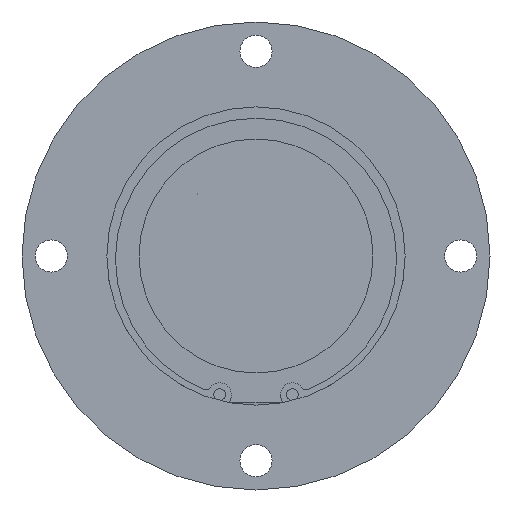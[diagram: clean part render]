
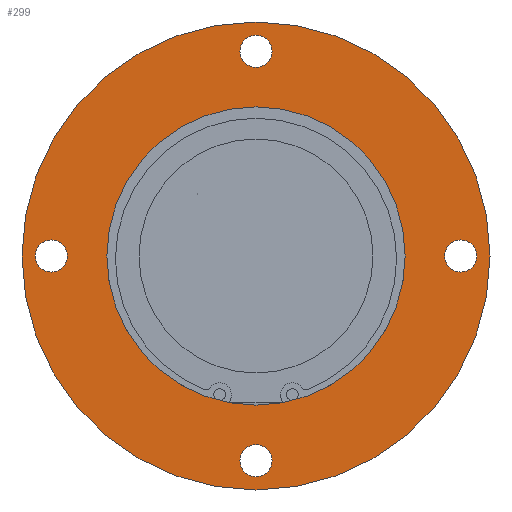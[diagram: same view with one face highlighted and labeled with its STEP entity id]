
A CAD part, front view. The second image highlights one B-rep face of the part: STEP entity #299.
In plain terms, the highlighted planar face has unit normal (0, -1, 0).
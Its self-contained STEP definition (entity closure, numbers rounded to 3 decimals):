
#13 = DIRECTION ( 'NONE',  ( -1., 0., 0. ) ) ;
#30 = AXIS2_PLACEMENT_3D ( 'NONE', #122, #807, #13 ) ;
#37 = DIRECTION ( 'NONE',  ( 0., -1., 0. ) ) ;
#43 = CIRCLE ( 'NONE', #73, 5.5 ) ;
#46 = ORIENTED_EDGE ( 'NONE', *, *, #184, .T. ) ;
#55 = EDGE_CURVE ( 'NONE', #292, #1271, #551, .T. ) ;
#57 = DIRECTION ( 'NONE',  ( 1., 0., 0. ) ) ;
#61 = CIRCLE ( 'NONE', #345, 80. ) ;
#65 = DIRECTION ( 'NONE',  ( 1., 0., 0. ) ) ;
#71 = DIRECTION ( 'NONE',  ( -1., 0., 0. ) ) ;
#73 = AXIS2_PLACEMENT_3D ( 'NONE', #760, #84, #873 ) ;
#78 = ORIENTED_EDGE ( 'NONE', *, *, #55, .F. ) ;
#84 = DIRECTION ( 'NONE',  ( 0., -1., 0. ) ) ;
#96 = AXIS2_PLACEMENT_3D ( 'NONE', #509, #843, #153 ) ;
#100 = AXIS2_PLACEMENT_3D ( 'NONE', #712, #37, #828 ) ;
#118 = VERTEX_POINT ( 'NONE', #922 ) ;
#122 = CARTESIAN_POINT ( 'NONE',  ( 0., 0., -70. ) ) ;
#131 = FACE_BOUND ( 'NONE', #1134, .T. ) ;
#151 = EDGE_CURVE ( 'NONE', #642, #1352, #163, .T. ) ;
#153 = DIRECTION ( 'NONE',  ( -1., 0., 0. ) ) ;
#163 = CIRCLE ( 'NONE', #30, 5.5 ) ;
#184 = EDGE_CURVE ( 'NONE', #236, #1215, #1284, .T. ) ;
#210 = CIRCLE ( 'NONE', #859, 51. ) ;
#236 = VERTEX_POINT ( 'NONE', #559 ) ;
#240 = DIRECTION ( 'NONE',  ( 0., -1., 0. ) ) ;
#244 = AXIS2_PLACEMENT_3D ( 'NONE', #777, #1386, #71 ) ;
#292 = VERTEX_POINT ( 'NONE', #666 ) ;
#299 = ADVANCED_FACE ( 'NONE', ( #624, #1337, #1219, #794, #131, #1019 ), #1322, .F. ) ;
#317 = EDGE_CURVE ( 'NONE', #118, #773, #1303, .T. ) ;
#321 = ORIENTED_EDGE ( 'NONE', *, *, #317, .F. ) ;
#322 = EDGE_LOOP ( 'NONE', ( #321, #1029 ) ) ;
#340 = CARTESIAN_POINT ( 'NONE',  ( 70., 0., 0. ) ) ;
#345 = AXIS2_PLACEMENT_3D ( 'NONE', #475, #1241, #582 ) ;
#394 = EDGE_CURVE ( 'NONE', #773, #118, #778, .T. ) ;
#459 = DIRECTION ( 'NONE',  ( -1., 0., 0. ) ) ;
#461 = DIRECTION ( 'NONE',  ( 1., 0., 0. ) ) ;
#475 = CARTESIAN_POINT ( 'NONE',  ( 0., 0., 0. ) ) ;
#509 = CARTESIAN_POINT ( 'NONE',  ( 0., 0., 70. ) ) ;
#516 = DIRECTION ( 'NONE',  ( 0., -1., 0. ) ) ;
#524 = CARTESIAN_POINT ( 'NONE',  ( 5.5, 0., -70. ) ) ;
#525 = EDGE_CURVE ( 'NONE', #593, #942, #210, .T. ) ;
#550 = CARTESIAN_POINT ( 'NONE',  ( 5.5, 0., 70. ) ) ;
#551 = CIRCLE ( 'NONE', #737, 5.5 ) ;
#552 = ORIENTED_EDGE ( 'NONE', *, *, #653, .F. ) ;
#559 = CARTESIAN_POINT ( 'NONE',  ( 80., 0., 0. ) ) ;
#562 = CARTESIAN_POINT ( 'NONE',  ( 64.5, 0., 0. ) ) ;
#567 = CARTESIAN_POINT ( 'NONE',  ( 0., 0., 0. ) ) ;
#582 = DIRECTION ( 'NONE',  ( 1., 0., 0. ) ) ;
#593 = VERTEX_POINT ( 'NONE', #1189 ) ;
#624 = FACE_BOUND ( 'NONE', #963, .T. ) ;
#633 = CARTESIAN_POINT ( 'NONE',  ( -5.5, 0., -70. ) ) ;
#642 = VERTEX_POINT ( 'NONE', #524 ) ;
#650 = CARTESIAN_POINT ( 'NONE',  ( -75.5, 0., 0. ) ) ;
#653 = EDGE_CURVE ( 'NONE', #1229, #877, #43, .T. ) ;
#657 = CIRCLE ( 'NONE', #1342, 5.5 ) ;
#665 = DIRECTION ( 'NONE',  ( -1., 0., 0. ) ) ;
#666 = CARTESIAN_POINT ( 'NONE',  ( 75.5, 0., 0. ) ) ;
#687 = CARTESIAN_POINT ( 'NONE',  ( 51., 0., 0. ) ) ;
#712 = CARTESIAN_POINT ( 'NONE',  ( 0., 0., 70. ) ) ;
#729 = DIRECTION ( 'NONE',  ( 0., -1., 0. ) ) ;
#736 = DIRECTION ( 'NONE',  ( 0., -1., 0. ) ) ;
#737 = AXIS2_PLACEMENT_3D ( 'NONE', #952, #516, #1184 ) ;
#754 = AXIS2_PLACEMENT_3D ( 'NONE', #340, #1123, #459 ) ;
#760 = CARTESIAN_POINT ( 'NONE',  ( -70., 0., 0. ) ) ;
#763 = ORIENTED_EDGE ( 'NONE', *, *, #915, .T. ) ;
#764 = CIRCLE ( 'NONE', #754, 5.5 ) ;
#773 = VERTEX_POINT ( 'NONE', #550 ) ;
#777 = CARTESIAN_POINT ( 'NONE',  ( -51., 0., 0. ) ) ;
#778 = CIRCLE ( 'NONE', #100, 5.5 ) ;
#794 = FACE_BOUND ( 'NONE', #322, .T. ) ;
#795 = CARTESIAN_POINT ( 'NONE',  ( -80., 0., 0. ) ) ;
#807 = DIRECTION ( 'NONE',  ( 0., -1., 0. ) ) ;
#828 = DIRECTION ( 'NONE',  ( -1., 0., 0. ) ) ;
#843 = DIRECTION ( 'NONE',  ( 0., -1., 0. ) ) ;
#847 = EDGE_CURVE ( 'NONE', #1271, #292, #764, .T. ) ;
#859 = AXIS2_PLACEMENT_3D ( 'NONE', #1388, #736, #65 ) ;
#870 = CIRCLE ( 'NONE', #1070, 5.5 ) ;
#873 = DIRECTION ( 'NONE',  ( -1., 0., 0. ) ) ;
#877 = VERTEX_POINT ( 'NONE', #1127 ) ;
#910 = EDGE_CURVE ( 'NONE', #877, #1229, #657, .T. ) ;
#913 = CARTESIAN_POINT ( 'NONE',  ( -70., 0., 0. ) ) ;
#915 = EDGE_CURVE ( 'NONE', #1215, #236, #61, .T. ) ;
#922 = CARTESIAN_POINT ( 'NONE',  ( -5.5, 0., 70. ) ) ;
#942 = VERTEX_POINT ( 'NONE', #687 ) ;
#944 = ORIENTED_EDGE ( 'NONE', *, *, #1276, .F. ) ;
#952 = CARTESIAN_POINT ( 'NONE',  ( 70., 0., 0. ) ) ;
#963 = EDGE_LOOP ( 'NONE', ( #1218, #78 ) ) ;
#1017 = EDGE_LOOP ( 'NONE', ( #46, #763 ) ) ;
#1019 = FACE_OUTER_BOUND ( 'NONE', #1017, .T. ) ;
#1029 = ORIENTED_EDGE ( 'NONE', *, *, #394, .F. ) ;
#1030 = DIRECTION ( 'NONE',  ( -1., 0., 0. ) ) ;
#1070 = AXIS2_PLACEMENT_3D ( 'NONE', #1209, #1420, #665 ) ;
#1079 = CIRCLE ( 'NONE', #1309, 51. ) ;
#1096 = EDGE_LOOP ( 'NONE', ( #552, #1263 ) ) ;
#1123 = DIRECTION ( 'NONE',  ( 0., -1., 0. ) ) ;
#1127 = CARTESIAN_POINT ( 'NONE',  ( -64.5, 0., 0. ) ) ;
#1132 = EDGE_CURVE ( 'NONE', #942, #593, #1079, .T. ) ;
#1134 = EDGE_LOOP ( 'NONE', ( #1421, #1183 ) ) ;
#1183 = ORIENTED_EDGE ( 'NONE', *, *, #525, .F. ) ;
#1184 = DIRECTION ( 'NONE',  ( -1., 0., 0. ) ) ;
#1189 = CARTESIAN_POINT ( 'NONE',  ( -51., 0., 0. ) ) ;
#1209 = CARTESIAN_POINT ( 'NONE',  ( 0., 0., -70. ) ) ;
#1215 = VERTEX_POINT ( 'NONE', #795 ) ;
#1218 = ORIENTED_EDGE ( 'NONE', *, *, #847, .F. ) ;
#1219 = FACE_BOUND ( 'NONE', #1096, .T. ) ;
#1229 = VERTEX_POINT ( 'NONE', #650 ) ;
#1232 = DIRECTION ( 'NONE',  ( 0., -1., 0. ) ) ;
#1241 = DIRECTION ( 'NONE',  ( 0., -1., 0. ) ) ;
#1255 = AXIS2_PLACEMENT_3D ( 'NONE', #567, #1232, #461 ) ;
#1263 = ORIENTED_EDGE ( 'NONE', *, *, #910, .F. ) ;
#1271 = VERTEX_POINT ( 'NONE', #562 ) ;
#1276 = EDGE_CURVE ( 'NONE', #1352, #642, #870, .T. ) ;
#1284 = CIRCLE ( 'NONE', #1255, 80. ) ;
#1303 = CIRCLE ( 'NONE', #96, 5.5 ) ;
#1309 = AXIS2_PLACEMENT_3D ( 'NONE', #1385, #729, #57 ) ;
#1322 = PLANE ( 'NONE',  #244 ) ;
#1337 = FACE_BOUND ( 'NONE', #1376, .T. ) ;
#1342 = AXIS2_PLACEMENT_3D ( 'NONE', #913, #240, #1030 ) ;
#1352 = VERTEX_POINT ( 'NONE', #633 ) ;
#1376 = EDGE_LOOP ( 'NONE', ( #944, #1382 ) ) ;
#1382 = ORIENTED_EDGE ( 'NONE', *, *, #151, .F. ) ;
#1385 = CARTESIAN_POINT ( 'NONE',  ( 0., 0., 0. ) ) ;
#1386 = DIRECTION ( 'NONE',  ( 0., 1., 0. ) ) ;
#1388 = CARTESIAN_POINT ( 'NONE',  ( 0., 0., 0. ) ) ;
#1420 = DIRECTION ( 'NONE',  ( 0., -1., 0. ) ) ;
#1421 = ORIENTED_EDGE ( 'NONE', *, *, #1132, .F. ) ;
